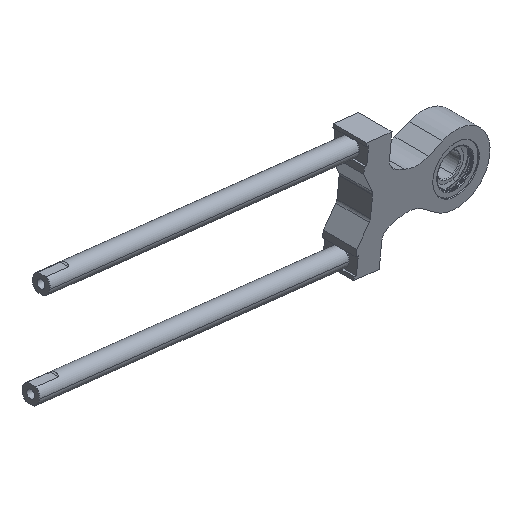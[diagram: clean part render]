
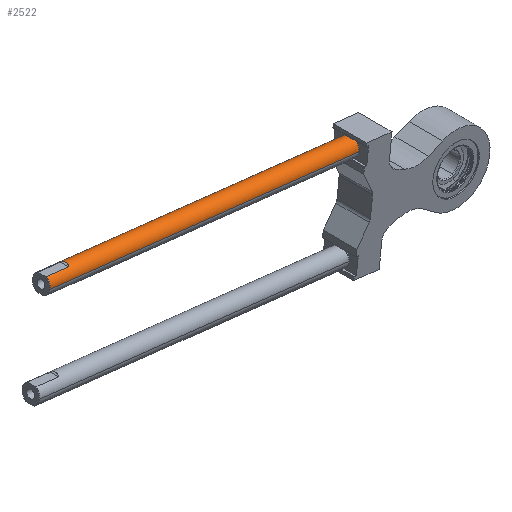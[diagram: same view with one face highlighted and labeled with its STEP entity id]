
A CAD part, isometric view. The second image highlights one B-rep face of the part: STEP entity #2522.
In plain terms, the highlighted cylindrical face has radius 15.75 mm (diameter 31.5 mm), a partial arc.
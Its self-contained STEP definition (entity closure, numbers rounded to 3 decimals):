
#2410=AXIS2_PLACEMENT_3D('Cylinder Axis2P3D',#2407,#2408,#2409) ;
#2414=AXIS2_PLACEMENT_3D('Circle Axis2P3D',#2412,#2413,$) ;
#2428=AXIS2_PLACEMENT_3D('Circle Axis2P3D',#2426,#2427,$) ;
#2450=AXIS2_PLACEMENT_3D('Circle Axis2P3D',#2448,#2449,$) ;
#2472=AXIS2_PLACEMENT_3D('Circle Axis2P3D',#2470,#2471,$) ;
#2486=AXIS2_PLACEMENT_3D('Circle Axis2P3D',#2484,#2485,$) ;
#2354=CARTESIAN_POINT('Vertex',(-269.951,-352.785,3325.156)) ;
#2356=CARTESIAN_POINT('Vertex',(-269.951,-367.216,3325.156)) ;
#2359=CARTESIAN_POINT('Line Origine',(-289.572,-352.785,3327.404)) ;
#2363=CARTESIAN_POINT('Vertex',(-309.194,-352.785,3329.651)) ;
#2390=CARTESIAN_POINT('Vertex',(-309.194,-367.216,3329.651)) ;
#2393=CARTESIAN_POINT('Line Origine',(-289.572,-367.216,3327.404)) ;
#2407=CARTESIAN_POINT('Axis2P3D Location',(-35.587,-360.,3284.218)) ;
#2412=CARTESIAN_POINT('Axis2P3D Location',(-310.787,-360.,3315.742)) ;
#2416=CARTESIAN_POINT('Vertex',(-310.787,-375.75,3315.742)) ;
#2419=CARTESIAN_POINT('Line Origine',(-35.587,-375.75,3284.218)) ;
#2423=CARTESIAN_POINT('Vertex',(234.149,-375.75,3253.32)) ;
#2426=CARTESIAN_POINT('Axis2P3D Location',(234.149,-360.,3253.32)) ;
#2430=CARTESIAN_POINT('Vertex',(235.776,-366.601,3267.527)) ;
#2434=CARTESIAN_POINT('Control Point',(235.6,-366.149,3267.749)) ;
#2435=CARTESIAN_POINT('Control Point',(235.657,-366.302,3267.677)) ;
#2436=CARTESIAN_POINT('Control Point',(235.716,-366.452,3267.603)) ;
#2437=CARTESIAN_POINT('Control Point',(235.776,-366.601,3267.527)) ;
#2438=CARTESIAN_POINT('Vertex',(235.6,-366.149,3267.749)) ;
#2441=CARTESIAN_POINT('Line Origine',(-33.937,-366.149,3298.624)) ;
#2445=CARTESIAN_POINT('Vertex',(231.825,-366.149,3268.181)) ;
#2448=CARTESIAN_POINT('Axis2P3D Location',(230.175,-360.,3253.776)) ;
#2452=CARTESIAN_POINT('Vertex',(231.825,-353.851,3268.181)) ;
#2455=CARTESIAN_POINT('Line Origine',(-33.937,-353.851,3298.624)) ;
#2459=CARTESIAN_POINT('Vertex',(235.6,-353.851,3267.749)) ;
#2463=CARTESIAN_POINT('Control Point',(235.6,-353.851,3267.749)) ;
#2464=CARTESIAN_POINT('Control Point',(235.657,-353.699,3267.677)) ;
#2465=CARTESIAN_POINT('Control Point',(235.716,-353.548,3267.603)) ;
#2466=CARTESIAN_POINT('Control Point',(235.776,-353.399,3267.527)) ;
#2467=CARTESIAN_POINT('Vertex',(235.776,-353.399,3267.527)) ;
#2470=CARTESIAN_POINT('Axis2P3D Location',(234.149,-360.,3253.32)) ;
#2474=CARTESIAN_POINT('Vertex',(234.149,-344.25,3253.32)) ;
#2477=CARTESIAN_POINT('Line Origine',(-35.587,-344.25,3284.218)) ;
#2481=CARTESIAN_POINT('Vertex',(-310.787,-344.25,3315.742)) ;
#2484=CARTESIAN_POINT('Axis2P3D Location',(-310.787,-360.,3315.742)) ;
#2490=CARTESIAN_POINT('Control Point',(-269.951,-352.785,3325.156)) ;
#2491=CARTESIAN_POINT('Control Point',(-269.377,-353.392,3325.405)) ;
#2492=CARTESIAN_POINT('Control Point',(-268.839,-354.041,3325.639)) ;
#2493=CARTESIAN_POINT('Control Point',(-268.348,-354.736,3325.852)) ;
#2494=CARTESIAN_POINT('Control Point',(-267.574,-356.07,3326.188)) ;
#2495=CARTESIAN_POINT('Control Point',(-267.056,-357.539,3326.413)) ;
#2496=CARTESIAN_POINT('Control Point',(-266.884,-358.214,3326.487)) ;
#2497=CARTESIAN_POINT('Control Point',(-266.687,-359.547,3326.573)) ;
#2498=CARTESIAN_POINT('Control Point',(-266.75,-360.894,3326.546)) ;
#2499=CARTESIAN_POINT('Control Point',(-266.842,-361.536,3326.505)) ;
#2500=CARTESIAN_POINT('Control Point',(-267.242,-363.216,3326.332)) ;
#2501=CARTESIAN_POINT('Control Point',(-268.,-364.755,3326.003)) ;
#2502=CARTESIAN_POINT('Control Point',(-268.583,-365.644,3325.75)) ;
#2503=CARTESIAN_POINT('Control Point',(-269.238,-366.462,3325.465)) ;
#2504=CARTESIAN_POINT('Control Point',(-269.951,-367.216,3325.156)) ;
#2360=DIRECTION('Vector Direction',(-0.994,0.,0.114)) ;
#2394=DIRECTION('Vector Direction',(-0.994,0.,0.114)) ;
#2408=DIRECTION('Axis2P3D Direction',(-0.994,0.,0.114)) ;
#2409=DIRECTION('Axis2P3D XDirection',(0.,1.,0.)) ;
#2413=DIRECTION('Axis2P3D Direction',(-0.994,0.,0.114)) ;
#2420=DIRECTION('Vector Direction',(-0.994,0.,0.114)) ;
#2427=DIRECTION('Axis2P3D Direction',(-0.994,0.,0.114)) ;
#2442=DIRECTION('Vector Direction',(-0.994,0.,0.114)) ;
#2449=DIRECTION('Axis2P3D Direction',(-0.994,0.,0.114)) ;
#2456=DIRECTION('Vector Direction',(-0.994,0.,0.114)) ;
#2471=DIRECTION('Axis2P3D Direction',(-0.994,0.,0.114)) ;
#2478=DIRECTION('Vector Direction',(-0.994,0.,0.114)) ;
#2485=DIRECTION('Axis2P3D Direction',(-0.994,0.,0.114)) ;
#2361=VECTOR('Line Direction',#2360,1.) ;
#2395=VECTOR('Line Direction',#2394,1.) ;
#2421=VECTOR('Line Direction',#2420,1.) ;
#2443=VECTOR('Line Direction',#2442,1.) ;
#2457=VECTOR('Line Direction',#2456,1.) ;
#2479=VECTOR('Line Direction',#2478,1.) ;
#2507=ORIENTED_EDGE('',*,*,#2418,.F.) ;
#2508=ORIENTED_EDGE('',*,*,#2425,.F.) ;
#2509=ORIENTED_EDGE('',*,*,#2432,.F.) ;
#2510=ORIENTED_EDGE('',*,*,#2440,.F.) ;
#2511=ORIENTED_EDGE('',*,*,#2447,.T.) ;
#2512=ORIENTED_EDGE('',*,*,#2454,.F.) ;
#2513=ORIENTED_EDGE('',*,*,#2461,.F.) ;
#2514=ORIENTED_EDGE('',*,*,#2469,.F.) ;
#2515=ORIENTED_EDGE('',*,*,#2476,.F.) ;
#2516=ORIENTED_EDGE('',*,*,#2483,.T.) ;
#2517=ORIENTED_EDGE('',*,*,#2488,.F.) ;
#2518=ORIENTED_EDGE('',*,*,#2365,.F.) ;
#2519=ORIENTED_EDGE('',*,*,#2505,.T.) ;
#2520=ORIENTED_EDGE('',*,*,#2397,.T.) ;
#2522=ADVANCED_FACE('UMMC1000DL-02A1-354.2\\\X2\FF8AFF9FFF70FF82\X0\ \X2\FF8EFF9EFF83FF9EFF68FF70\X0\',(#2521),#2411,.T.) ;
#2433=B_SPLINE_CURVE_WITH_KNOTS('',3,(#2434,#2435,#2436,#2437),.UNSPECIFIED.,.F.,.U.,(4,4),(0.,0.754),.UNSPECIFIED.) ;
#2462=B_SPLINE_CURVE_WITH_KNOTS('',3,(#2463,#2464,#2465,#2466),.UNSPECIFIED.,.F.,.U.,(4,4),(0.,0.754),.UNSPECIFIED.) ;
#2489=B_SPLINE_CURVE_WITH_KNOTS('',5,(#2490,#2491,#2492,#2493,#2494,#2495,#2496,#2497,#2498,#2499,#2500,#2501,#2502,#2503,#2504),.UNSPECIFIED.,.F.,.U.,(6,3,3,3,6),(0.,6.167,11.089,15.656,23.308),.UNSPECIFIED.) ;
#2415=CIRCLE('generated circle',#2414,15.75) ;
#2429=CIRCLE('generated circle',#2428,15.75) ;
#2451=CIRCLE('generated circle',#2450,15.75) ;
#2473=CIRCLE('generated circle',#2472,15.75) ;
#2487=CIRCLE('generated circle',#2486,15.75) ;
#2411=CYLINDRICAL_SURFACE('generated cylinder',#2410,15.75) ;
#2365=EDGE_CURVE('',#2355,#2364,#2362,.T.) ;
#2397=EDGE_CURVE('',#2357,#2391,#2396,.T.) ;
#2418=EDGE_CURVE('',#2417,#2391,#2415,.T.) ;
#2425=EDGE_CURVE('',#2424,#2417,#2422,.T.) ;
#2432=EDGE_CURVE('',#2431,#2424,#2429,.F.) ;
#2440=EDGE_CURVE('',#2439,#2431,#2433,.T.) ;
#2447=EDGE_CURVE('',#2439,#2446,#2444,.T.) ;
#2454=EDGE_CURVE('',#2453,#2446,#2451,.F.) ;
#2461=EDGE_CURVE('',#2460,#2453,#2458,.T.) ;
#2469=EDGE_CURVE('',#2468,#2460,#2462,.F.) ;
#2476=EDGE_CURVE('',#2475,#2468,#2473,.F.) ;
#2483=EDGE_CURVE('',#2475,#2482,#2480,.T.) ;
#2488=EDGE_CURVE('',#2364,#2482,#2487,.T.) ;
#2505=EDGE_CURVE('',#2355,#2357,#2489,.T.) ;
#2506=EDGE_LOOP('',(#2507,#2508,#2509,#2510,#2511,#2512,#2513,#2514,#2515,#2516,#2517,#2518,#2519,#2520)) ;
#2521=FACE_OUTER_BOUND('',#2506,.T.) ;
#2362=LINE('Line',#2359,#2361) ;
#2396=LINE('Line',#2393,#2395) ;
#2422=LINE('Line',#2419,#2421) ;
#2444=LINE('Line',#2441,#2443) ;
#2458=LINE('Line',#2455,#2457) ;
#2480=LINE('Line',#2477,#2479) ;
#2355=VERTEX_POINT('',#2354) ;
#2357=VERTEX_POINT('',#2356) ;
#2364=VERTEX_POINT('',#2363) ;
#2391=VERTEX_POINT('',#2390) ;
#2417=VERTEX_POINT('',#2416) ;
#2424=VERTEX_POINT('',#2423) ;
#2431=VERTEX_POINT('',#2430) ;
#2439=VERTEX_POINT('',#2438) ;
#2446=VERTEX_POINT('',#2445) ;
#2453=VERTEX_POINT('',#2452) ;
#2460=VERTEX_POINT('',#2459) ;
#2468=VERTEX_POINT('',#2467) ;
#2475=VERTEX_POINT('',#2474) ;
#2482=VERTEX_POINT('',#2481) ;
